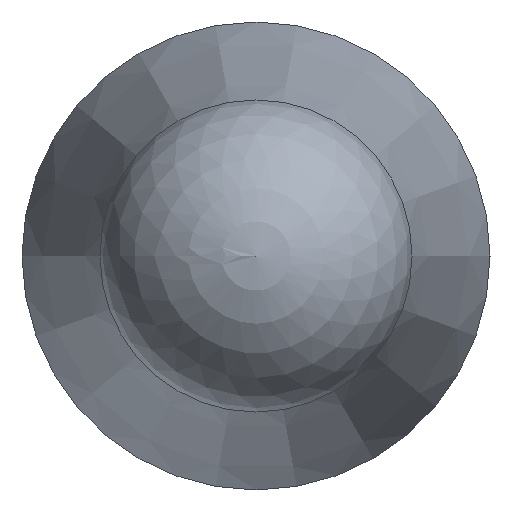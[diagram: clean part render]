
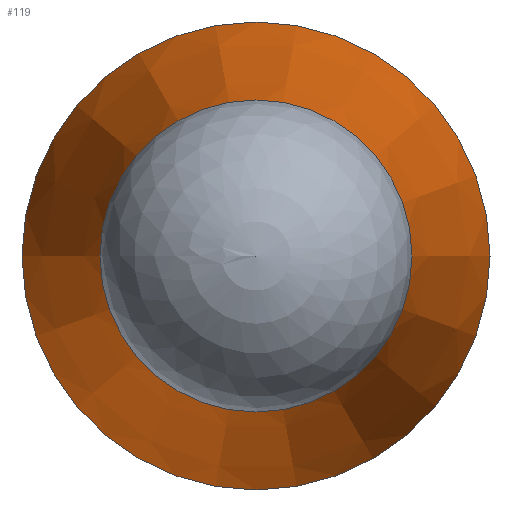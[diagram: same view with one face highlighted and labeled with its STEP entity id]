
A CAD part, left-side view. The second image highlights one B-rep face of the part: STEP entity #119.
In plain terms, the highlighted conical face has half-angle 11 degrees and reference radius 3 mm.
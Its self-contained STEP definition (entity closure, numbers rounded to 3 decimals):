
#93=CONICAL_SURFACE('',#191,3.,11.);
#106=FACE_BOUND('',#137,.T.);
#107=FACE_BOUND('',#138,.T.);
#119=ADVANCED_FACE('',(#106,#107),#93,.T.);
#137=EDGE_LOOP('',(#151));
#138=EDGE_LOOP('',(#152));
#151=ORIENTED_EDGE('',*,*,#168,.F.);
#152=ORIENTED_EDGE('',*,*,#169,.T.);
#161=VERTEX_POINT('',#244);
#162=VERTEX_POINT('',#247);
#168=EDGE_CURVE('',#161,#161,#175,.T.);
#169=EDGE_CURVE('',#162,#162,#176,.T.);
#175=CIRCLE('',#188,1.95);
#176=CIRCLE('',#190,3.);
#188=AXIS2_PLACEMENT_3D('',#243,#215,#216);
#190=AXIS2_PLACEMENT_3D('',#246,#219,#220);
#191=AXIS2_PLACEMENT_3D('',#248,#221,#222);
#215=DIRECTION('',(-1.,0.,0.));
#216=DIRECTION('',(0.,-1.,0.));
#219=DIRECTION('',(-1.,0.,0.));
#220=DIRECTION('',(0.,-1.,0.));
#221=DIRECTION('',(1.,0.,0.));
#222=DIRECTION('',(0.,1.,0.));
#243=CARTESIAN_POINT('',(7909.307,6117.77,0.));
#244=CARTESIAN_POINT('',(7909.307,6115.82,0.));
#246=CARTESIAN_POINT('',(7914.709,6117.77,0.));
#247=CARTESIAN_POINT('',(7914.709,6114.77,0.));
#248=CARTESIAN_POINT('',(7914.709,6117.77,0.));
